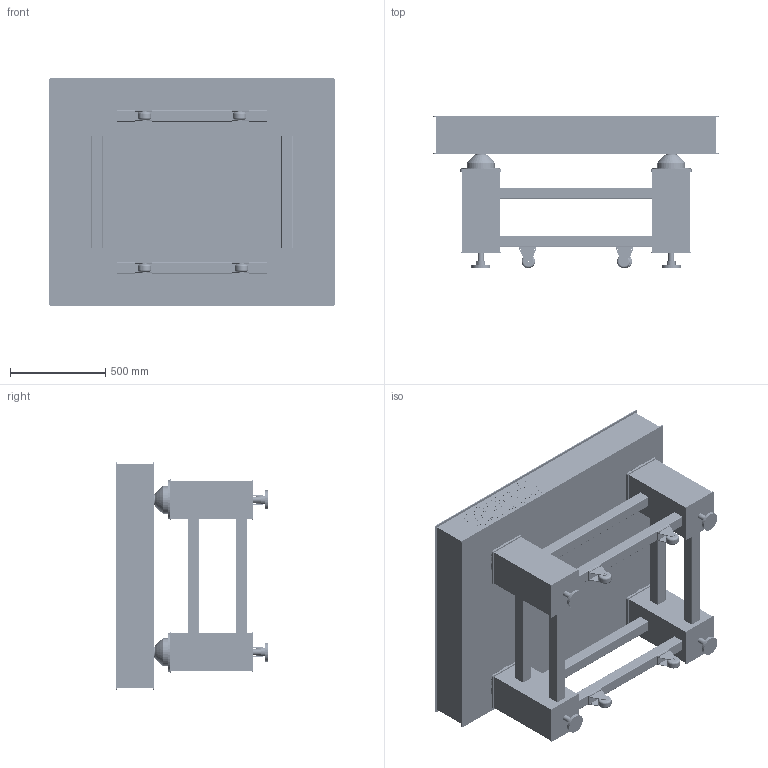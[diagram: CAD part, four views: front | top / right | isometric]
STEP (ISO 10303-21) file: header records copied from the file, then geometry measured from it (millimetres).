
FILE_DESCRIPTION (( 'STEP AP214' ), '1' );
FILE_NAME ('1200x1500x200+200袪倛郯攝路淥す怢.STEP', '2024-10-10T09:37:59', ( '' ), ( '' ), 'SwSTEP 2.0', 'SolidWorks 2022', '' );
FILE_SCHEMA (( 'AUTOMOTIVE_DESIGN' ));
Length unit declared in the file: millimetre
Products named in the file (1): 1200x1500x200+200锥形阻尼隔振平台
Bounding box: 1500 x 800 x 1200 mm (x, y, z)
Volume: 378743085.9 mm3; surface area: 12417402.9 mm2
Topology: 41 solids, 41 shells, 10710 faces, 23642 edges, 15740 vertices
Faces by surface type: cylinder 6068, plane 4618, torus 24
Entity records: 301332 total; most frequent: DIRECTION 57308, CARTESIAN_POINT 50105, ORIENTED_EDGE 47284, EDGE_CURVE 23642, AXIS2_PLACEMENT_3D 22959, VERTEX_POINT 15740, EDGE_LOOP 13644, CIRCLE 12248
